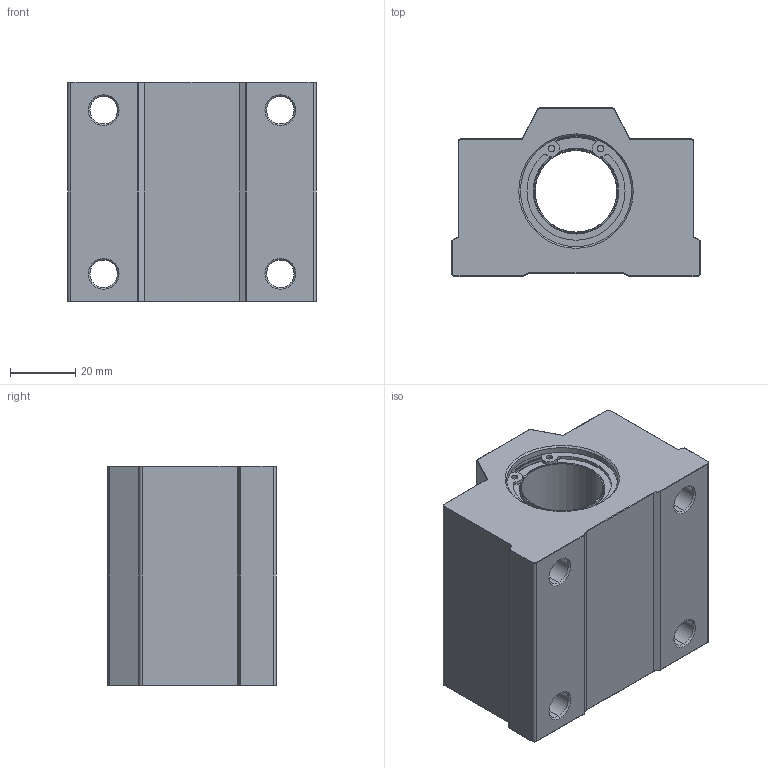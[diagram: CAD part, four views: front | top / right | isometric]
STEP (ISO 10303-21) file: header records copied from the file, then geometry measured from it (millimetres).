
FILE_DESCRIPTION (( 'STEP AP214' ), '1' );
FILE_NAME ('SC25UU.STEP', '2020-09-28T11:56:30', ( '' ), ( '' ), 'SwSTEP 2.0', 'SolidWorks 2018', '' );
FILE_SCHEMA (( 'AUTOMOTIVE_DESIGN' ));
Length unit declared in the file: millimetre
Products named in the file (4): SC25UU-03; SC25UU-02; SC25UU-01; SC25UU
Assembly tree (4 placements, depth 2):
  SC25UU
    SC25UU-01
    SC25UU-02
    SC25UU-03  x2
Bounding box: 76 x 51.6 x 67 mm (x, y, z)
Volume: 176262.1 mm3; surface area: 46125 mm2
Topology: 4 solids, 4 shells, 372 faces, 911 edges, 566 vertices
Faces by surface type: plane 150, cylinder 108, torus 48, bspline 38, cone 20, sphere 8
Entity records: 14247 total; most frequent: CARTESIAN_POINT 4077, ORIENTED_EDGE 1724, DIRECTION 1712, EDGE_CURVE 862, AXIS2_PLACEMENT_3D 602, VERTEX_POINT 536, LINE 508, VECTOR 508
